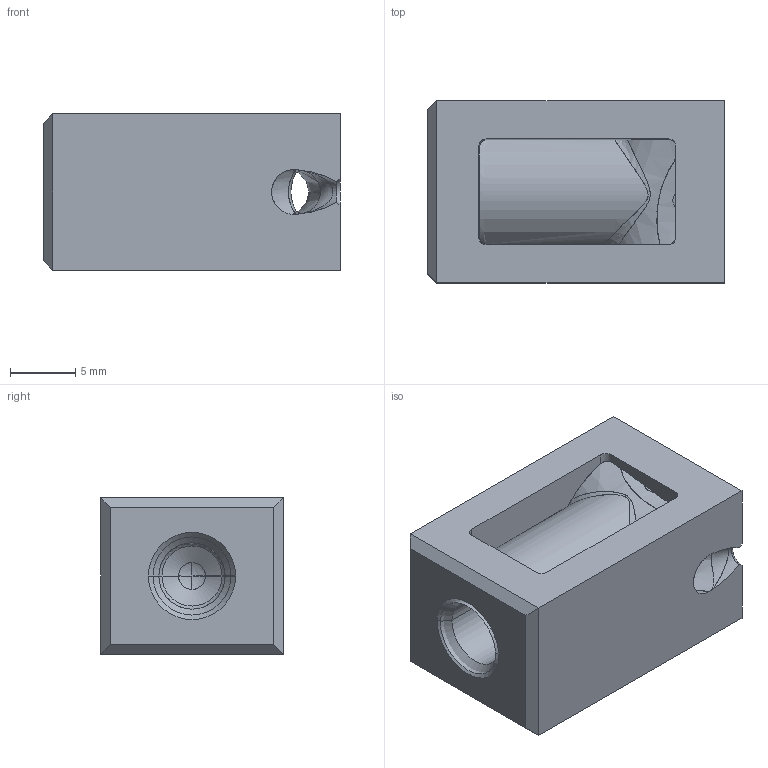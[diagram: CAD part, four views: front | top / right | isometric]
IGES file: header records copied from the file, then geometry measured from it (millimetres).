
Start section: START RECORD GO HERE.
Global section: file name: tgs14-16-s1.igs; native system: DASSAULT SYSTEMES CATIA V5 R20 - www.3ds.com; preprocessor: CATIA Version 5 Release 20 ; author: Utente; organization: NB04-ASUS; date: 20200418.083040; units: millimetre
Bounding box: 22.8 x 14 x 12 mm (x, y, z)
Surface area: 2271.5 mm2 (no closed solid volume)
Topology: 0 solids, 0 shells, 73 faces, 439 edges, 432 vertices
Faces by surface type: revolution 37, plane 22, bspline 14
